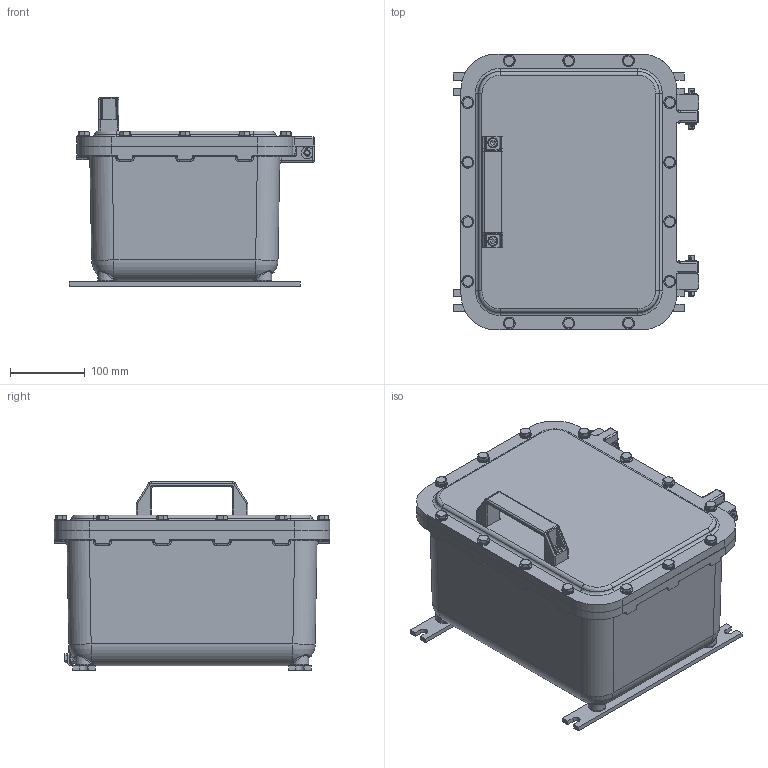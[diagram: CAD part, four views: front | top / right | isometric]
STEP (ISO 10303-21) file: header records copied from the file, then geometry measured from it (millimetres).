
FILE_DESCRIPTION((''),'2;1');
FILE_NAME('\\file-server\cortem_klient\INVENTOR БАЗА МОДЕЛЕЙ\Актуальная база моделей для отдела продаж\ЩОРВ-Н\ЩОРВ-Н372920.stp','2019-04-10T14:52:42',('V.E.Dolguev'),(''),'Autodesk Inventor 2012','Autodesk Inventor 2012','');
FILE_SCHEMA(('AUTOMOTIVE_DESIGN { 1 0 10303 214 1 1 1 1 }'));
Length unit declared in the file: millimetre
Products named in the file (1): ЩОРВ-Н372920
Bounding box: 329.31 x 370 x 253.2 mm (x, y, z)
Surface area: 950347.6 mm2 (no closed solid volume)
Topology: 0 solids, 59 shells, 1767 faces, 4137 edges, 2571 vertices
Faces by surface type: plane 695, cylinder 471, bspline 351, cone 168, sphere 46, torus 36
Full cylindrical faces by diameter (mm): 2.1 x4, 3 x8, 4.917 x7, 6 x3, 6.4 x1, 6.5 x2, 6.647 x16, 7.323 x14, 7.9 x3, 8 x18, 8.376 x4, 8.4 x20, 8.5 x20, 10 x4, 11 x4, 11.4 x14, 12 x1, 13 x2, 13.5 x2, 16 x20, 20 x4
Entity records: 66737 total; most frequent: CARTESIAN_POINT 27646, ORIENTED_EDGE 7580, DIRECTION 7045, EDGE_CURVE 3790, AXIS2_PLACEMENT_3D 2646, VERTEX_POINT 2511, EDGE_LOOP 2277, FACE_OUTER_BOUND 1767
